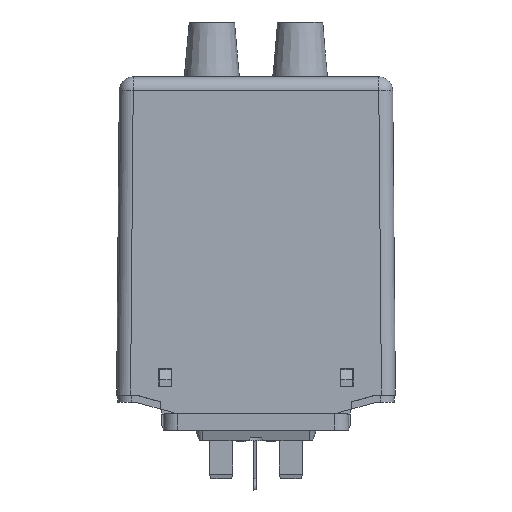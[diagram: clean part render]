
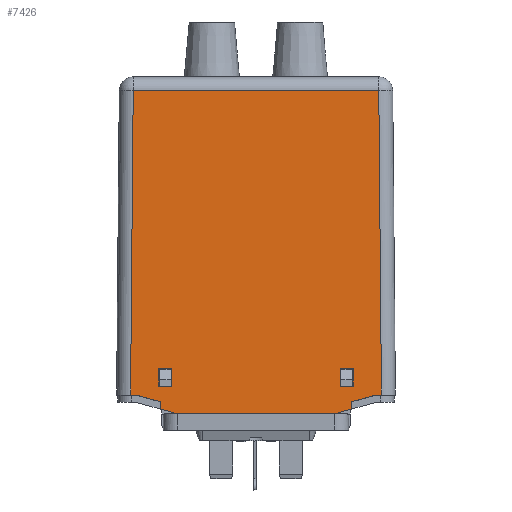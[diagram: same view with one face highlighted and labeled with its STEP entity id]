
A CAD part, left-side view. The second image highlights one B-rep face of the part: STEP entity #7426.
In plain terms, the highlighted planar face has unit normal (-1, 0, 0.009).
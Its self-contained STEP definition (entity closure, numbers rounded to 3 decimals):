
#5487=CARTESIAN_POINT('',(-19.949,18.1,1.739));
#5488=VERTEX_POINT('',#5487);
#5495=CARTESIAN_POINT('',(-19.915,18.1,5.539));
#5496=VERTEX_POINT('',#5495);
#5497=CARTESIAN_POINT('',(-19.915,18.1,5.539));
#5498=DIRECTION('',(-0.009,0.,-1.));
#5499=VECTOR('',#5498,3.8);
#5500=LINE('',#5497,#5499);
#5501=EDGE_CURVE('',#5496,#5488,#5500,.T.);
#5620=CARTESIAN_POINT('',(-19.915,20.9,5.539));
#5621=VERTEX_POINT('',#5620);
#5622=CARTESIAN_POINT('',(-19.915,20.9,5.539));
#5623=DIRECTION('',(0.0,-1.0,0.0));
#5624=VECTOR('',#5623,2.8);
#5625=LINE('',#5622,#5624);
#5626=EDGE_CURVE('',#5621,#5496,#5625,.T.);
#5673=CARTESIAN_POINT('',(-19.949,20.9,1.739));
#5674=VERTEX_POINT('',#5673);
#5675=CARTESIAN_POINT('',(-19.949,20.9,1.739));
#5676=DIRECTION('',(0.009,0.0,1.));
#5677=VECTOR('',#5676,3.8);
#5678=LINE('',#5675,#5677);
#5679=EDGE_CURVE('',#5674,#5621,#5678,.T.);
#5712=CARTESIAN_POINT('',(-19.949,18.1,1.739));
#5713=DIRECTION('',(0.0,1.0,0.0));
#5714=VECTOR('',#5713,2.8);
#5715=LINE('',#5712,#5714);
#5716=EDGE_CURVE('',#5488,#5674,#5715,.T.);
#5799=CARTESIAN_POINT('',(-19.949,-20.9,1.739));
#5800=VERTEX_POINT('',#5799);
#5807=CARTESIAN_POINT('',(-19.915,-20.9,5.539));
#5808=VERTEX_POINT('',#5807);
#5809=CARTESIAN_POINT('',(-19.915,-20.9,5.539));
#5810=DIRECTION('',(-0.009,0.,-1.));
#5811=VECTOR('',#5810,3.8);
#5812=LINE('',#5809,#5811);
#5813=EDGE_CURVE('',#5808,#5800,#5812,.T.);
#5932=CARTESIAN_POINT('',(-19.915,-18.1,5.539));
#5933=VERTEX_POINT('',#5932);
#5934=CARTESIAN_POINT('',(-19.915,-18.1,5.539));
#5935=DIRECTION('',(0.0,-1.0,0.0));
#5936=VECTOR('',#5935,2.8);
#5937=LINE('',#5934,#5936);
#5938=EDGE_CURVE('',#5933,#5808,#5937,.T.);
#5985=CARTESIAN_POINT('',(-19.949,-18.1,1.739));
#5986=VERTEX_POINT('',#5985);
#5987=CARTESIAN_POINT('',(-19.949,-18.1,1.739));
#5988=DIRECTION('',(0.009,0.0,1.));
#5989=VECTOR('',#5988,3.8);
#5990=LINE('',#5987,#5989);
#5991=EDGE_CURVE('',#5986,#5933,#5990,.T.);
#6024=CARTESIAN_POINT('',(-19.949,-20.9,1.739));
#6025=DIRECTION('',(0.0,1.0,0.0));
#6026=VECTOR('',#6025,2.8);
#6027=LINE('',#6024,#6026);
#6028=EDGE_CURVE('',#5800,#5986,#6027,.T.);
#6698=CARTESIAN_POINT('',(-19.965,-25.7,-0.161));
#6699=VERTEX_POINT('',#6698);
#6706=CARTESIAN_POINT('',(-19.978,-20.65,-1.609));
#6707=VERTEX_POINT('',#6706);
#6708=CARTESIAN_POINT('',(-19.978,-20.65,-1.609));
#6709=DIRECTION('',(0.002,-0.961,0.276));
#6710=VECTOR('',#6709,5.254);
#6711=LINE('',#6708,#6710);
#6712=EDGE_CURVE('',#6707,#6699,#6711,.T.);
#6762=CARTESIAN_POINT('',(-19.991,-20.65,-3.161));
#6763=VERTEX_POINT('',#6762);
#6764=CARTESIAN_POINT('',(-19.991,-20.65,-3.161));
#6765=DIRECTION('',(0.009,0.0,1.));
#6766=VECTOR('',#6765,1.552);
#6767=LINE('',#6764,#6766);
#6768=EDGE_CURVE('',#6763,#6707,#6767,.T.);
#6800=CARTESIAN_POINT('',(-20.0,-17.163,-4.161));
#6801=VERTEX_POINT('',#6800);
#6802=CARTESIAN_POINT('',(-20.0,-17.163,-4.161));
#6803=DIRECTION('',(0.002,-0.961,0.276));
#6804=VECTOR('',#6803,3.628);
#6805=LINE('',#6802,#6804);
#6806=EDGE_CURVE('',#6801,#6763,#6805,.T.);
#6854=CARTESIAN_POINT('',(-20.,17.163,-4.161));
#6855=VERTEX_POINT('',#6854);
#6856=CARTESIAN_POINT('',(-20.0,-17.163,-4.161));
#6857=DIRECTION('',(0.0,1.0,0.0));
#6858=VECTOR('',#6857,34.325);
#6859=LINE('',#6856,#6858);
#6860=EDGE_CURVE('',#6801,#6855,#6859,.T.);
#6902=CARTESIAN_POINT('',(-19.991,20.65,-3.161));
#6903=VERTEX_POINT('',#6902);
#6904=CARTESIAN_POINT('',(-19.991,20.65,-3.161));
#6905=DIRECTION('',(-0.002,-0.961,-0.276));
#6906=VECTOR('',#6905,3.628);
#6907=LINE('',#6904,#6906);
#6908=EDGE_CURVE('',#6903,#6855,#6907,.T.);
#6964=CARTESIAN_POINT('',(-19.978,20.65,-1.609));
#6965=VERTEX_POINT('',#6964);
#6966=CARTESIAN_POINT('',(-19.978,20.65,-1.609));
#6967=DIRECTION('',(-0.009,0.0,-1.));
#6968=VECTOR('',#6967,1.552);
#6969=LINE('',#6966,#6968);
#6970=EDGE_CURVE('',#6965,#6903,#6969,.T.);
#7019=CARTESIAN_POINT('',(-19.965,25.7,-0.161));
#7020=VERTEX_POINT('',#7019);
#7021=CARTESIAN_POINT('',(-19.965,25.7,-0.161));
#7022=DIRECTION('',(-0.002,-0.961,-0.276));
#7023=VECTOR('',#7022,5.254);
#7024=LINE('',#7021,#7023);
#7025=EDGE_CURVE('',#7020,#6965,#7024,.T.);
#7043=CARTESIAN_POINT('',(-19.393,26.433,65.365));
#7044=VERTEX_POINT('',#7043);
#7107=CARTESIAN_POINT('',(-19.393,-26.433,65.365));
#7108=VERTEX_POINT('',#7107);
#7241=CARTESIAN_POINT('',(-19.965,-27.005,-0.161));
#7242=VERTEX_POINT('',#7241);
#7259=CARTESIAN_POINT('',(-19.393,-26.433,65.365));
#7260=DIRECTION('',(-0.009,-0.009,-1.));
#7261=VECTOR('',#7260,65.531);
#7262=LINE('',#7259,#7261);
#7263=EDGE_CURVE('',#7108,#7242,#7262,.T.);
#7274=CARTESIAN_POINT('',(-19.393,26.433,65.365));
#7275=DIRECTION('',(0.0,-1.0,0.0));
#7276=VECTOR('',#7275,52.866);
#7277=LINE('',#7274,#7276);
#7278=EDGE_CURVE('',#7044,#7108,#7277,.T.);
#7343=CARTESIAN_POINT('',(-19.965,27.005,-0.161));
#7344=VERTEX_POINT('',#7343);
#7352=CARTESIAN_POINT('',(-19.965,27.005,-0.161));
#7353=DIRECTION('',(0.009,-0.009,1.));
#7354=VECTOR('',#7353,65.531);
#7355=LINE('',#7352,#7354);
#7356=EDGE_CURVE('',#7344,#7044,#7355,.T.);
#7385=CARTESIAN_POINT('',(-20.,-30.04,-4.161));
#7386=DIRECTION('',(-1.,0.,0.009));
#7387=DIRECTION('',(0.0,-1.0,0.0));
#7388=AXIS2_PLACEMENT_3D('',#7385,#7386,#7387);
#7389=PLANE('',#7388);
#7390=ORIENTED_EDGE('',*,*,#7263,.F.);
#7391=ORIENTED_EDGE('',*,*,#7278,.F.);
#7392=ORIENTED_EDGE('',*,*,#7356,.F.);
#7393=CARTESIAN_POINT('',(-19.965,27.005,-0.161));
#7394=DIRECTION('',(0.0,-1.0,0.0));
#7395=VECTOR('',#7394,1.305);
#7396=LINE('',#7393,#7395);
#7397=EDGE_CURVE('',#7344,#7020,#7396,.T.);
#7398=ORIENTED_EDGE('',*,*,#7397,.T.);
#7399=ORIENTED_EDGE('',*,*,#7025,.T.);
#7400=ORIENTED_EDGE('',*,*,#6970,.T.);
#7401=ORIENTED_EDGE('',*,*,#6908,.T.);
#7402=ORIENTED_EDGE('',*,*,#6860,.F.);
#7403=ORIENTED_EDGE('',*,*,#6806,.T.);
#7404=ORIENTED_EDGE('',*,*,#6768,.T.);
#7405=ORIENTED_EDGE('',*,*,#6712,.T.);
#7406=CARTESIAN_POINT('',(-19.965,-25.7,-0.161));
#7407=DIRECTION('',(0.0,-1.0,0.0));
#7408=VECTOR('',#7407,1.305);
#7409=LINE('',#7406,#7408);
#7410=EDGE_CURVE('',#6699,#7242,#7409,.T.);
#7411=ORIENTED_EDGE('',*,*,#7410,.T.);
#7412=EDGE_LOOP('',(#7390,#7391,#7392,#7398,#7399,#7400,#7401,#7402,#7403,#7404,#7405,#7411));
#7413=FACE_OUTER_BOUND('',#7412,.T.);
#7414=ORIENTED_EDGE('',*,*,#5679,.T.);
#7415=ORIENTED_EDGE('',*,*,#5626,.T.);
#7416=ORIENTED_EDGE('',*,*,#5501,.T.);
#7417=ORIENTED_EDGE('',*,*,#5716,.T.);
#7418=EDGE_LOOP('',(#7414,#7415,#7416,#7417));
#7419=FACE_BOUND('',#7418,.T.);
#7420=ORIENTED_EDGE('',*,*,#5991,.T.);
#7421=ORIENTED_EDGE('',*,*,#5938,.T.);
#7422=ORIENTED_EDGE('',*,*,#5813,.T.);
#7423=ORIENTED_EDGE('',*,*,#6028,.T.);
#7424=EDGE_LOOP('',(#7420,#7421,#7422,#7423));
#7425=FACE_BOUND('',#7424,.T.);
#7426=ADVANCED_FACE('',(#7413,#7419,#7425),#7389,.T.);
